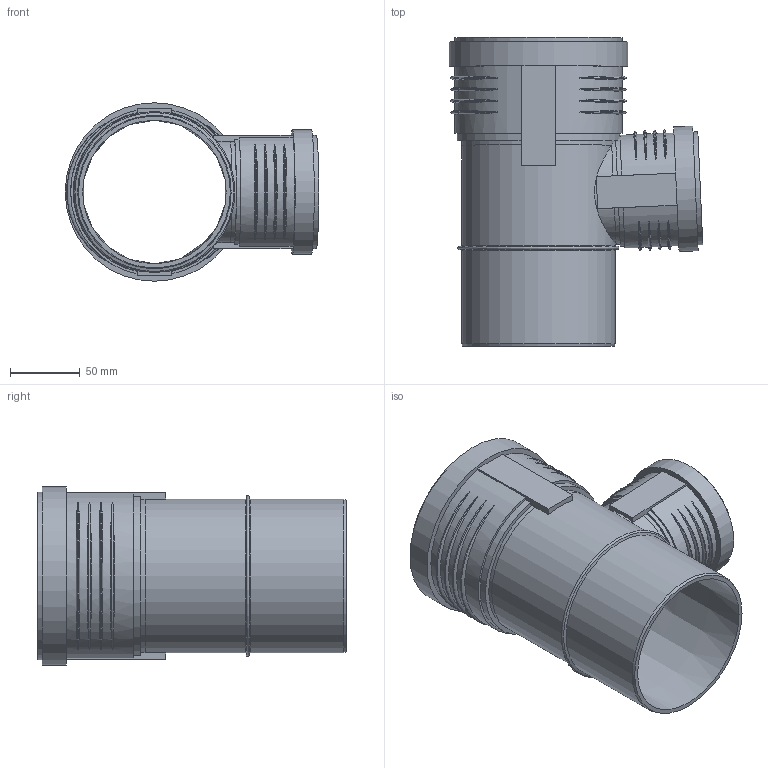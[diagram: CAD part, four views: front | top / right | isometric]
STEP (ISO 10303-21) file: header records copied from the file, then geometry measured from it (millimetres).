
FILE_DESCRIPTION(/* description */ (''),/* implementation_level */ '2;1');
FILE_NAME(/* name */ 'Z:\Geberit\Export\NewStep\390549.stp',/* time_stamp */ '2014-04-02T08:14:34+02:00',/* author */ ('ML'),/* organization */ (''),/* preprocessor_version */ 'ST-DEVELOPER v15.2',/* originating_system */ 'Autodesk Inventor 2014',/* authorisation */ '');
FILE_SCHEMA (('AUTOMOTIVE_DESIGN { 1 0 10303 214 3 1 1 }'));
Length unit declared in the file: millimetre
Products named in the file (4): 861361; 861402; 861404; 390549
Bounding box: 182.05 x 221.8 x 128.1 mm (x, y, z)
Volume: 347797.5 mm3; surface area: 215393.1 mm2
Topology: 3 solids, 3 shells, 124 faces, 304 edges, 212 vertices
Faces by surface type: torus 50, plane 37, cylinder 30, cone 7
Full cylindrical faces by diameter (mm): 70 x1, 70.2 x1, 75.2 x2, 76.2 x2, 81.2 x1, 84.6 x1, 89.6 x1, 103.2 x1, 110.2 x3, 113.3 x2, 120.3 x1, 121.1 x1, 128.1 x1
Entity records: 5143 total; most frequent: CARTESIAN_POINT 2235, ORIENTED_EDGE 534, DIRECTION 528, EDGE_CURVE 267, AXIS2_PLACEMENT_3D 228, VERTEX_POINT 203, EDGE_LOOP 186, STYLED_ITEM 124
